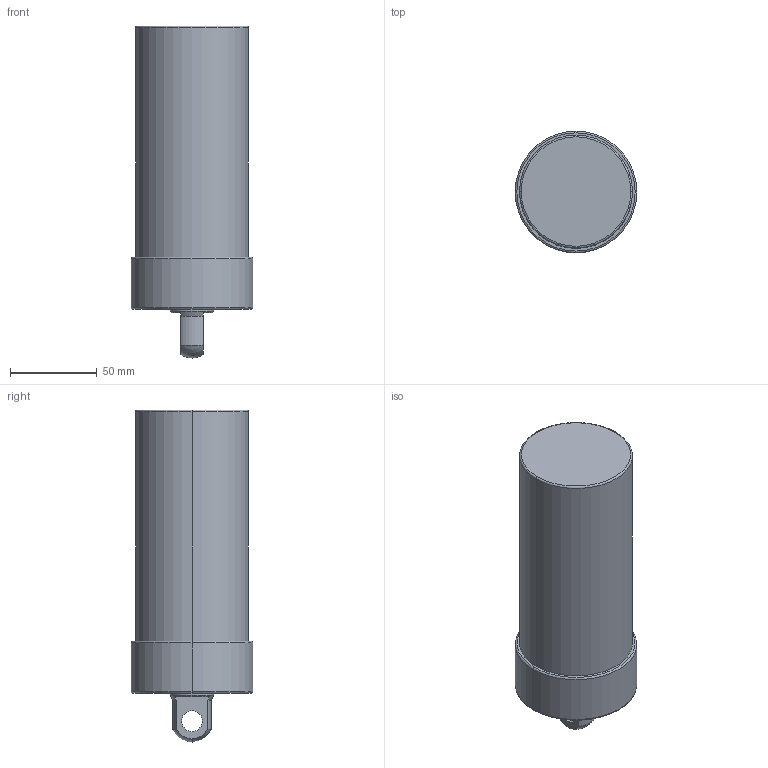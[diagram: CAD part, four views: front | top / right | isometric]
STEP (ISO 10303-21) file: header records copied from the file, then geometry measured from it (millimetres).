
FILE_DESCRIPTION (( 'STEP AP203' ), '1' );
FILE_NAME ('CLLU-065GP-100.STEP', '2020-01-08T00:33:59', ( '' ), ( '' ), 'SwSTEP 2.0', 'SolidWorks 2015', '' );
FILE_SCHEMA (( 'CONFIG_CONTROL_DESIGN' ));
Length unit declared in the file: millimetre
Products named in the file (1): CLLU-065GP-100
Bounding box: 70 x 70 x 191 mm (x, y, z)
Volume: 560873.7 mm3; surface area: 44115 mm2
Topology: 1 solids, 1 shells, 57 faces, 130 edges, 75 vertices
Faces by surface type: cylinder 22, cone 18, plane 9, torus 6, sphere 2
Entity records: 1643 total; most frequent: DIRECTION 308, CARTESIAN_POINT 267, ORIENTED_EDGE 244, AXIS2_PLACEMENT_3D 132, EDGE_CURVE 122, VERTEX_POINT 75, CIRCLE 74, EDGE_LOOP 67
